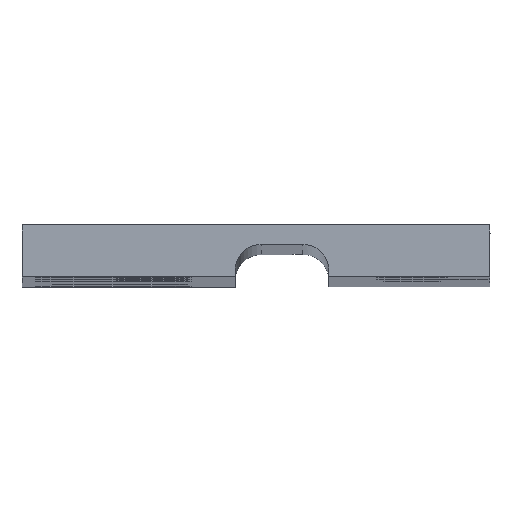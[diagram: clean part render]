
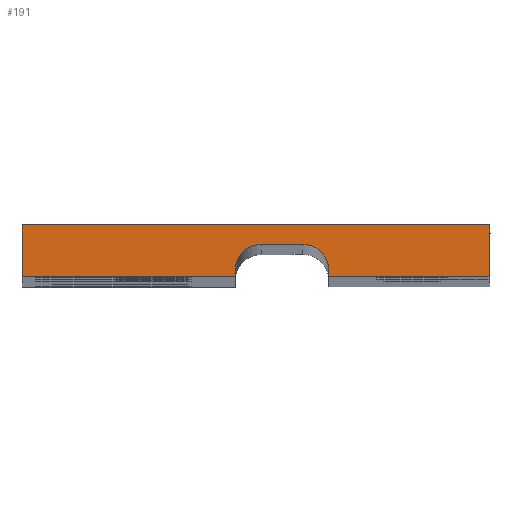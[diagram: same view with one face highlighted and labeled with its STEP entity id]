
A CAD part, top view. The second image highlights one B-rep face of the part: STEP entity #191.
In plain terms, the highlighted planar face has unit normal (0, 0, 1).
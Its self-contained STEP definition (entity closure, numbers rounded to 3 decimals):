
#128=CIRCLE('',#1060,1.);
#129=CIRCLE('',#1061,1.);
#191=ADVANCED_FACE('',(#249),#237,.T.);
#237=PLANE('',#1062);
#249=FACE_OUTER_BOUND('',#292,.T.);
#292=EDGE_LOOP('',(#419,#420,#421,#422,#423,#424,#425,#426,#427,#428));
#419=ORIENTED_EDGE('',*,*,#809,.F.);
#420=ORIENTED_EDGE('',*,*,#775,.F.);
#421=ORIENTED_EDGE('',*,*,#810,.F.);
#422=ORIENTED_EDGE('',*,*,#811,.F.);
#423=ORIENTED_EDGE('',*,*,#812,.F.);
#424=ORIENTED_EDGE('',*,*,#813,.F.);
#425=ORIENTED_EDGE('',*,*,#814,.F.);
#426=ORIENTED_EDGE('',*,*,#807,.F.);
#427=ORIENTED_EDGE('',*,*,#794,.F.);
#428=ORIENTED_EDGE('',*,*,#815,.F.);
#672=VERTEX_POINT('',#1457);
#673=VERTEX_POINT('',#1459);
#690=VERTEX_POINT('',#1511);
#691=VERTEX_POINT('',#1513);
#703=VERTEX_POINT('',#1551);
#704=VERTEX_POINT('',#1555);
#705=VERTEX_POINT('',#1557);
#706=VERTEX_POINT('',#1559);
#707=VERTEX_POINT('',#1561);
#708=VERTEX_POINT('',#1563);
#775=EDGE_CURVE('',#672,#673,#921,.T.);
#794=EDGE_CURVE('',#690,#691,#932,.T.);
#807=EDGE_CURVE('',#691,#703,#935,.T.);
#809=EDGE_CURVE('',#673,#704,#937,.T.);
#810=EDGE_CURVE('',#705,#672,#938,.T.);
#811=EDGE_CURVE('',#706,#705,#939,.T.);
#812=EDGE_CURVE('',#707,#706,#128,.T.);
#813=EDGE_CURVE('',#708,#707,#940,.T.);
#814=EDGE_CURVE('',#703,#708,#129,.T.);
#815=EDGE_CURVE('',#704,#690,#941,.T.);
#921=LINE('',#1458,#984);
#932=LINE('',#1512,#995);
#935=LINE('',#1550,#998);
#937=LINE('',#1554,#1000);
#938=LINE('',#1556,#1001);
#939=LINE('',#1558,#1002);
#940=LINE('',#1562,#1003);
#941=LINE('',#1565,#1004);
#984=VECTOR('',#1164,1.);
#995=VECTOR('',#1185,1.);
#998=VECTOR('',#1202,1.);
#1000=VECTOR('',#1206,1.);
#1001=VECTOR('',#1207,1.);
#1002=VECTOR('',#1208,1.);
#1003=VECTOR('',#1211,1.);
#1004=VECTOR('',#1214,1.);
#1060=AXIS2_PLACEMENT_3D('',#1560,#1209,#1210);
#1061=AXIS2_PLACEMENT_3D('',#1564,#1212,#1213);
#1062=AXIS2_PLACEMENT_3D('',#1566,#1215,#1216);
#1164=DIRECTION('',(0.,1.,0.));
#1185=DIRECTION('',(-1.,0.,0.));
#1202=DIRECTION('',(0.,1.,0.));
#1206=DIRECTION('',(1.,0.,0.));
#1207=DIRECTION('',(-1.,0.,0.));
#1208=DIRECTION('',(0.,-1.,0.));
#1209=DIRECTION('',(0.,0.,1.));
#1210=DIRECTION('',(-1.,0.,0.));
#1211=DIRECTION('',(-1.,0.,0.));
#1212=DIRECTION('',(0.,0.,1.));
#1213=DIRECTION('',(0.,1.,0.));
#1214=DIRECTION('',(0.,-1.,0.));
#1215=DIRECTION('',(0.,0.,1.));
#1216=DIRECTION('',(0.,-1.,0.));
#1457=CARTESIAN_POINT('',(-22.5,18.1,827.75));
#1458=CARTESIAN_POINT('',(-22.5,20.1,827.75));
#1459=CARTESIAN_POINT('',(-22.5,20.1,827.75));
#1511=CARTESIAN_POINT('',(-4.5,18.1,827.75));
#1512=CARTESIAN_POINT('',(-12.7,18.1,827.75));
#1513=CARTESIAN_POINT('',(-10.7,18.1,827.75));
#1550=CARTESIAN_POINT('',(-10.7,18.35,827.75));
#1551=CARTESIAN_POINT('',(-10.7,18.35,827.75));
#1554=CARTESIAN_POINT('',(-4.5,20.1,827.75));
#1555=CARTESIAN_POINT('',(-4.5,20.1,827.75));
#1556=CARTESIAN_POINT('',(-24.5,18.1,827.75));
#1557=CARTESIAN_POINT('',(-14.3,18.1,827.75));
#1558=CARTESIAN_POINT('',(-14.3,18.1,827.75));
#1559=CARTESIAN_POINT('',(-14.3,18.35,827.75));
#1560=CARTESIAN_POINT('',(-13.3,18.35,827.75));
#1561=CARTESIAN_POINT('',(-13.3,19.35,827.75));
#1562=CARTESIAN_POINT('',(-15.3,19.35,827.75));
#1563=CARTESIAN_POINT('',(-11.7,19.35,827.75));
#1564=CARTESIAN_POINT('',(-11.7,18.35,827.75));
#1565=CARTESIAN_POINT('',(-4.5,18.1,827.75));
#1566=CARTESIAN_POINT('',(-14.5,19.173,827.75));
